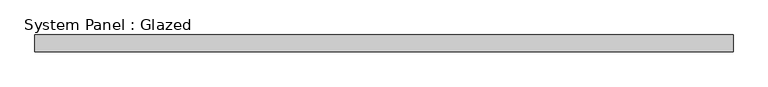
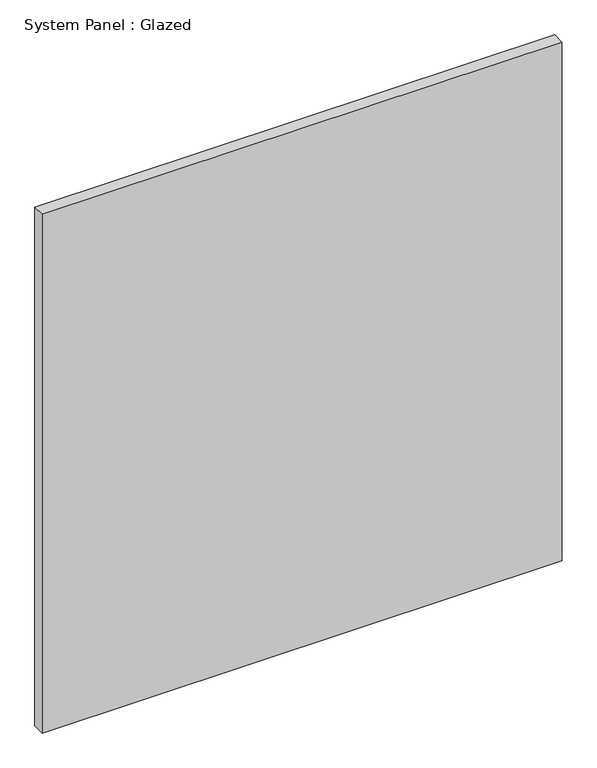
"""IFC4 building model written with IfcOpenShell, lengths in millimetres: plate geometry, System Panel : Glazed."""

import ifcopenshell
import ifcopenshell.guid

model = None  # the IFC model being written
_history = None  # IfcOwnerHistory: only IFC2X3 demands one
_inside = {}  # id of a spatial element -> (the spatial element, [elements in it])
_under = {}  # id of a project, library or spatial element -> (it, [spatial elements below it])
_declared = {}  # id of a project -> (the project, [libraries it declares])
_typed = {}  # id of a type object -> (the type object, [elements of that type])
_made_of = {}  # id of a material, layer set ... -> (it, [elements and type objects made of it])


def new_model(schema):
    """Start an empty IFC model of exactly this schema.

    Asked for "IFC4X3", IfcOpenShell would pick the latest addendum, in which some entities
    have other attributes; the version numbers below select the first issue.
    IFC2X3 requires an IfcOwnerHistory on every rooted entity: one is made here for all.
    """
    global model, _history
    if schema == "IFC4X3":
        model = ifcopenshell.file(schema_version=(4, 3, 0, 0))
    else:
        model = ifcopenshell.file(schema=schema)
    _inside.clear()
    _under.clear()
    _declared.clear()
    _typed.clear()
    _made_of.clear()
    _history = None
    if model.schema == "IFC2X3":
        org = make("IfcOrganization", Name="unknown")
        user = make(
            "IfcPersonAndOrganization",
            ThePerson=make("IfcPerson", FamilyName="unknown"),
            TheOrganization=org,
        )
        app = make(
            "IfcApplication",
            ApplicationDeveloper=org,
            Version="unknown",
            ApplicationFullName="unknown",
            ApplicationIdentifier="unknown",
        )
        _history = make(
            "IfcOwnerHistory",
            OwningUser=user,
            OwningApplication=app,
            ChangeAction="ADDED",
            CreationDate=0,
        )
    return model


def make(cls, **values):
    """One entity of the class cls with the attributes given. An attribute that is None is left unset."""
    return model.create_entity(
        cls, **{name: value for name, value in values.items() if value is not None}
    )


def rooted(cls, **values):
    """An entity with a GlobalId (a new one), such as an element, a storey or a relation."""
    return make(cls, GlobalId=ifcopenshell.guid.new(), OwnerHistory=_history, **values)


def si_unit(unit_type, name, prefix=None):
    """IfcSIUnit, for example si_unit("LENGTHUNIT", "METRE", prefix="MILLI")."""
    return make("IfcSIUnit", UnitType=unit_type, Prefix=prefix, Name=name)


def assignment(units):
    """IfcUnitAssignment: the units of a project."""
    return None if units is None else make("IfcUnitAssignment", Units=units)


def point(xyz):
    """IfcCartesianPoint."""
    return None if xyz is None else make("IfcCartesianPoint", Coordinates=xyz)


def direction(xyz):
    """IfcDirection."""
    return None if xyz is None else make("IfcDirection", DirectionRatios=xyz)


def frame(location, z_axis=None, x_axis=None):
    """IfcAxis2Placement3D, a coordinate frame: its origin and axes. An axis left out is left unset."""
    return make(
        "IfcAxis2Placement3D",
        Location=point(location),
        Axis=direction(z_axis),
        RefDirection=direction(x_axis),
    )


def origin():
    """The frame at (0, 0, 0) with its axes left unset."""
    return frame((0.0, 0.0, 0.0))


def origin_with_axes():
    """The frame at (0, 0, 0) with the z axis (0, 0, 1) and the x axis (1, 0, 0) written out."""
    return frame((0.0, 0.0, 0.0), z_axis=(0.0, 0.0, 1.0), x_axis=(1.0, 0.0, 0.0))


def place(relative_to, where):
    """IfcLocalPlacement: puts the frame where relative to a parent placement (None: the world)."""
    return make(
        "IfcLocalPlacement", PlacementRelTo=relative_to, RelativePlacement=where
    )


def context(
    kind, dimensions, precision=None, world=None, true_north=None, identifier=None
):
    """IfcGeometricRepresentationContext, for example the 3D "Model" context."""
    return make(
        "IfcGeometricRepresentationContext",
        ContextIdentifier=identifier,
        ContextType=kind,
        CoordinateSpaceDimension=dimensions,
        Precision=precision,
        WorldCoordinateSystem=world,
        TrueNorth=true_north,
    )


def project(units=None, contexts=None):
    """IfcProject with its units and contexts."""
    return rooted(
        "IfcProject",
        Name="project",
        RepresentationContexts=contexts,
        UnitsInContext=assignment(units),
    )


def spatial(cls, under=None, at=None, **own):
    """A site, building, storey or space (cls), placed at a placement, below another one or the project."""
    s = rooted(cls, ObjectPlacement=at, **own)
    if under is not None:
        _under.setdefault(under.id(), (under, []))[1].append(s)
    return s


def polyline(points):
    """IfcPolyline through the points."""
    return make("IfcPolyline", Points=[point(p) for p in points])


def outline(outer, holes=None, kind="AREA"):
    """IfcArbitraryClosedProfileDef: a profile drawn as a closed curve; with holes, ...WithVoids."""
    if holes is None:
        return make("IfcArbitraryClosedProfileDef", ProfileType=kind, OuterCurve=outer)
    return make(
        "IfcArbitraryProfileDefWithVoids",
        ProfileType=kind,
        OuterCurve=outer,
        InnerCurves=holes,
    )


def extrude(swept, where, along, depth):
    """IfcExtrudedAreaSolid: the profile swept, set in the frame where, extruded along a direction by depth."""
    return make(
        "IfcExtrudedAreaSolid",
        SweptArea=swept,
        Position=where,
        ExtrudedDirection=direction(along),
        Depth=depth,
    )


def shape(context_of_items, identifier, shape_type, items):
    """IfcShapeRepresentation: the items that make up one representation, for example the "Body"."""
    return make(
        "IfcShapeRepresentation",
        ContextOfItems=context_of_items,
        RepresentationIdentifier=identifier,
        RepresentationType=shape_type,
        Items=items,
    )


def source(mapping_origin, context_of_items, identifier, shape_type, items):
    """IfcRepresentationMap: a shape defined once, which mapped items show again and again."""
    return make(
        "IfcRepresentationMap",
        MappingOrigin=mapping_origin,
        MappedRepresentation=shape(context_of_items, identifier, shape_type, items),
    )


def transform(
    local_origin,
    x_axis=None,
    y_axis=None,
    z_axis=None,
    scale=None,
    scale2=None,
    scale3=None,
    uniform=True,
):
    """IfcCartesianTransformationOperator3D, or its non-uniform kind. x_axis, y_axis, z_axis: its Axis1, 2, 3."""
    if uniform:
        return make(
            "IfcCartesianTransformationOperator3D",
            Axis1=direction(x_axis),
            Axis2=direction(y_axis),
            LocalOrigin=point(local_origin),
            Scale=scale,
            Axis3=direction(z_axis),
        )
    return make(
        "IfcCartesianTransformationOperator3DnonUniform",
        Axis1=direction(x_axis),
        Axis2=direction(y_axis),
        LocalOrigin=point(local_origin),
        Scale=scale,
        Axis3=direction(z_axis),
        Scale2=scale2,
        Scale3=scale3,
    )


def mapped(mapping_source, mapping_target):
    """IfcMappedItem: shows the shape of a source again, moved by a transform."""
    return make(
        "IfcMappedItem", MappingSource=mapping_source, MappingTarget=mapping_target
    )


def made_of(thing, what):
    """Note that an element or type object is made of a material, layer set ...; save() writes the relation."""
    if what is not None:
        _made_of.setdefault(what.id(), (what, []))[1].append(thing)
    return thing


def element(
    cls,
    number,
    at=None,
    inside=None,
    cuts=None,
    type_object=None,
    material=None,
    context=None,
    identifier="Body",
    shape_type=None,
    held_by="IfcProductDefinitionShape",
    body=None,
    shapes=None,
    **own,
):
    """One element of the class cls, such as IfcWall. Its Tag is "e" and its number.

    at: its placement. inside: the storey or other place that contains it. cuts: it is an
    opening in that element (IfcRelVoidsElement). A single representation is given by context,
    identifier, shape_type and body (its items); several are given by shapes. held_by: the class
    of the entity that holds the representations. save() writes the other relations.
    """
    e = rooted(cls, Tag="e%d" % number, ObjectPlacement=at, **own)
    if body is not None:
        shapes = [shape(context, identifier, shape_type, body)]
    if shapes is not None:
        e.Representation = make(held_by, Representations=shapes)
    if inside is not None:
        _inside.setdefault(inside.id(), (inside, []))[1].append(e)
    if cuts is not None:
        rooted(
            "IfcRelVoidsElement", RelatingBuildingElement=cuts, RelatedOpeningElement=e
        )
    if type_object is not None:
        _typed.setdefault(type_object.id(), (type_object, []))[1].append(e)
    return made_of(e, material)


def aggregate(whole, parts):
    """IfcRelAggregates: a whole, such as a stair, and the parts it consists of."""
    return rooted("IfcRelAggregates", RelatingObject=whole, RelatedObjects=parts)


def save(model, path):
    """Write the relations noted so far, then the file.

    IfcRelAggregates (storeys below a building ...), IfcRelContainedInSpatialStructure (elements
    in a storey), IfcRelDefinesByType, IfcRelAssociatesMaterial and IfcRelDeclares: one each for
    every whole, place, type object, material and project.
    """
    for whole, parts in _under.values():
        aggregate(whole, parts)
    for where, things in _inside.values():
        rooted(
            "IfcRelContainedInSpatialStructure",
            RelatedElements=things,
            RelatingStructure=where,
        )
    for kind, things in _typed.values():
        rooted("IfcRelDefinesByType", RelatedObjects=things, RelatingType=kind)
    for what, things in _made_of.values():
        rooted("IfcRelAssociatesMaterial", RelatedObjects=things, RelatingMaterial=what)
    for by, libraries in _declared.values():
        rooted("IfcRelDeclares", RelatingContext=by, RelatedDefinitions=libraries)
    model.write(path)


def system_panel_glazed_523f05bf(model_context):
    return source(origin(), model_context, "Body", "SweptSolid", [
        extrude(outline(polyline([(533.0412548, 19.05), (-533.0412548, 19.05), (-533.0412548, 44.45), (533.0412548, 44.45), (533.0412548, 19.05)])), origin_with_axes(), (0.0, 0.0, 1.0), 1123.95),
    ])


if __name__ == "__main__":
    model = new_model("IFC4")
    model_context = context("Model", 3, world=origin())
    ifc_project = project(units=[si_unit("LENGTHUNIT", "METRE", prefix="MILLI")], contexts=[model_context])
    site = spatial("IfcSite", under=ifc_project)
    building = spatial("IfcBuilding", under=site)
    placement = place(None, origin())
    system_panel_glazed_shape = system_panel_glazed_523f05bf(model_context)
    element("IfcPlate", 1, ObjectType="System Panel : Glazed", at=placement, inside=building, context=model_context, shape_type="MappedRepresentation", body=[
        mapped(system_panel_glazed_shape, transform((0.0, 0.0, 0.0), x_axis=(1.0, 0.0, 0.0), y_axis=(0.0, 1.0, 0.0), z_axis=(0.0, 0.0, 1.0))),
    ])
    save(model, "model.ifc")
